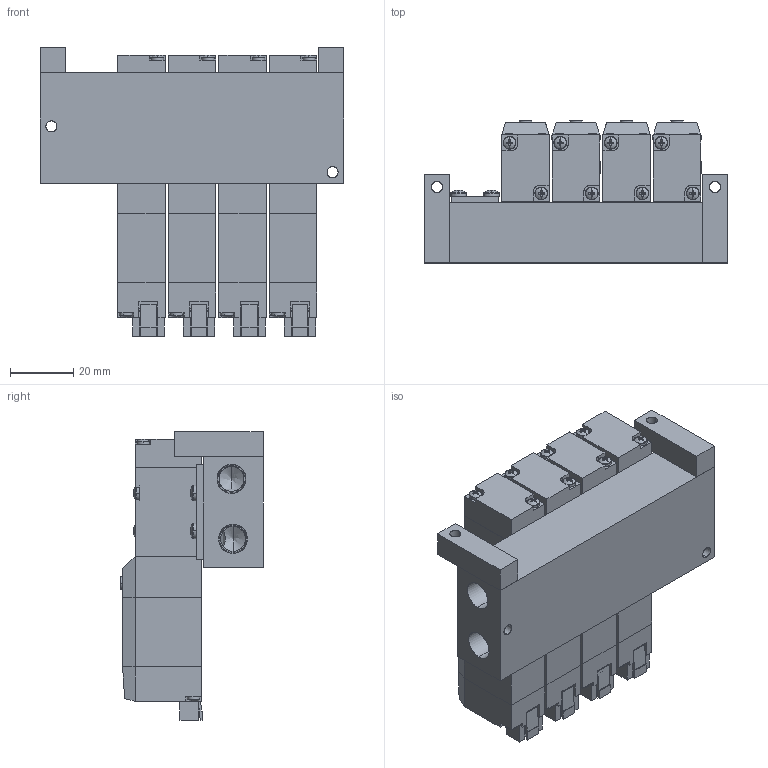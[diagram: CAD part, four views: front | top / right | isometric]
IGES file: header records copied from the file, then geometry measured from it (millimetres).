
Start section: SolidWorks IGES file using analytic representation for surfaces
Global section: file name: D:\Custom\3D繪製\PC\PC5\MFS#-PD5-M5-B-SP.IGS,1; native system: 5HSolidWorks 2014; preprocessor: SolidWorks 2014; author: Chieh_Lu; date: 150729.231646; units: millimetre
Bounding box: 96 x 45 x 91.5 mm (x, y, z)
Surface area: 68396 mm2 (no closed solid volume)
Topology: 0 solids, 0 shells, 2195 faces, 18698 edges, 18596 vertices
Faces by surface type: bspline 1439, revolution 756
